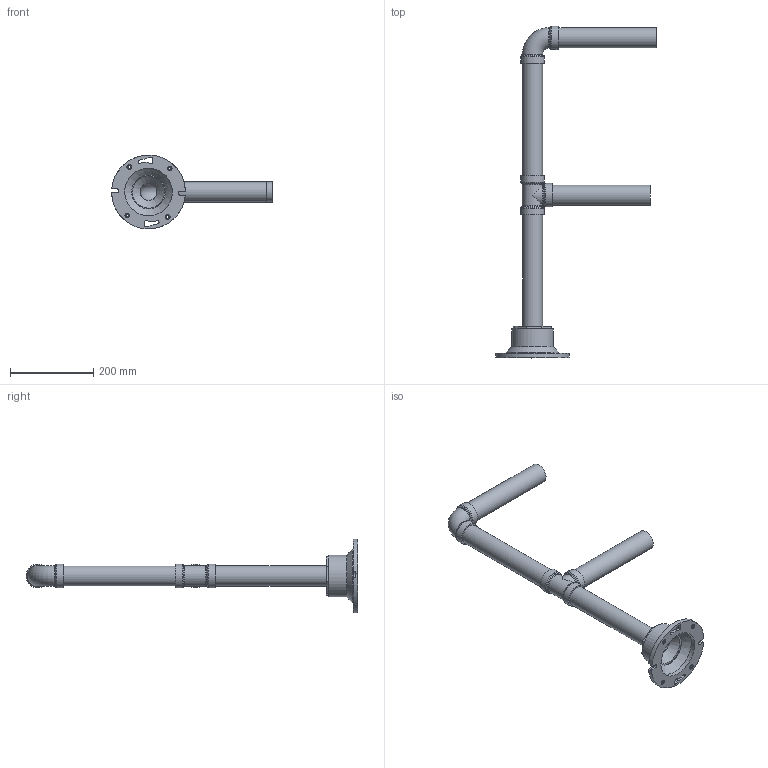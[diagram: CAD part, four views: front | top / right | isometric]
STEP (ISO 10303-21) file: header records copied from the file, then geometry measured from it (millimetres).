
FILE_DESCRIPTION(/* description */ (''),/* implementation_level */ '2;1');
FILE_NAME(/* name */ 'Horizontal Dispenser_Yellow.stp',/* time_stamp */ '2024-10-17T18:34:52-04:00',/* author */ ('nicks'),/* organization */ (''),/* preprocessor_version */ 'ST-DEVELOPER v20',/* originating_system */ 'Autodesk Inventor 2024',/* authorisation */ '');
FILE_SCHEMA (('AUTOMOTIVE_DESIGN { 1 0 10303 214 3 1 1 }'));
Length unit declared in the file: inch
Products named in the file (7): Horizontal Dispenser_Yellow; 1608T173_Drain, Waste and Vent ABS Pipe Fitting; 1608T154_Drain, Waste and Vent ABS Pipe Fitting; 1608T124_Drain, Waste and Vent ABS Pipe Fitting; ABS 1.5 X 12L; ABS 1.5 X 10L; 2389K91_Aboveground PVC Fitting for Drain, Waste and Vent
Assembly tree (8 placements, depth 2):
  Horizontal Dispenser_Yellow
    1608T173_Drain, Waste and Vent ABS Pipe Fitting
    1608T154_Drain, Waste and Vent ABS Pipe Fitting
    1608T124_Drain, Waste and Vent ABS Pipe Fitting
    ABS 1.5 X 12L  x2
    ABS 1.5 X 10L  x2
    2389K91_Aboveground PVC Fitting for Drain, Waste and Vent
Bounding box: 387.34 x 799.85 x 177.66 mm (x, y, z)
Volume: 1120568.2 mm3; surface area: 507022.5 mm2
Topology: 8 solids, 8 shells, 296 faces, 702 edges, 418 vertices
Faces by surface type: cylinder 108, plane 78, torus 35, bspline 28, sphere 24, cone 23
Full cylindrical faces by diameter (mm): 6.35 x4, 40.894 x7, 48.26 x4, 48.514 x1, 49.022 x2, 56.642 x6, 77.724 x1, 88.9 x1, 89.281 x1, 100.457 x1, 114.681 x1, 127.381 x1
Entity records: 12268 total; most frequent: CARTESIAN_POINT 5192, DIRECTION 1541, ORIENTED_EDGE 1368, EDGE_CURVE 684, AXIS2_PLACEMENT_3D 643, VERTEX_POINT 410, CIRCLE 361, EDGE_LOOP 316
